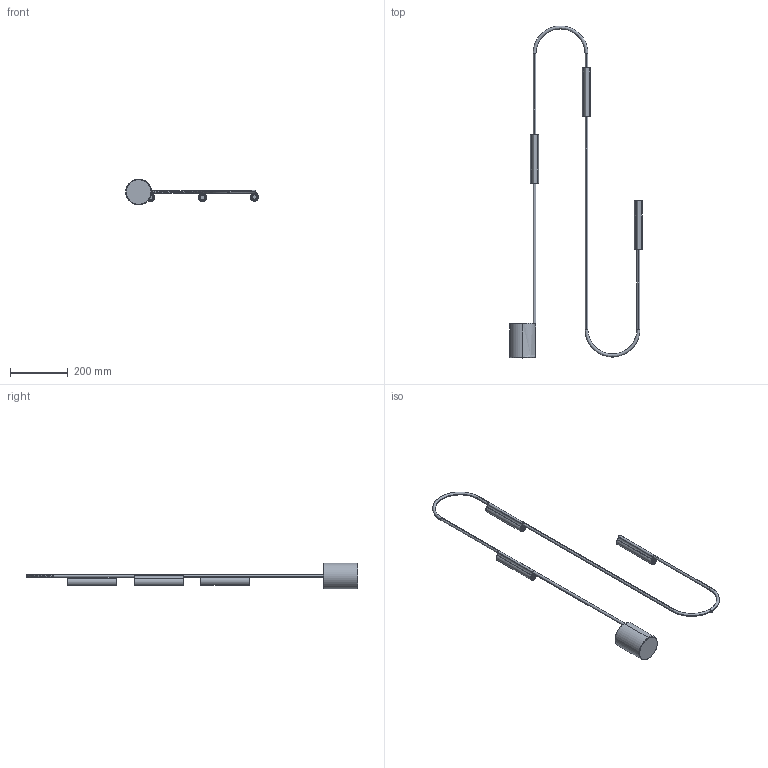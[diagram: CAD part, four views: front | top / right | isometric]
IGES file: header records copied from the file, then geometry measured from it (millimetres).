
Start section: SolidWorks IGES file using analytic representation for surfaces
Global section: file name: C:\Users\Joandita\Dropbox\Rakumba Industrial Design\PRODUCT\2 DEVELOPMENT\POP\CAD\LightWeight CAD\Pop - Floor.IGS; native system: SolidWorks 2017; preprocessor: SolidWorks 2017; author: Joandita; date: 240408.154734; units: millimetre
Bounding box: 460.42 x 1150 x 90 mm (x, y, z)
Surface area: 310662.1 mm2 (no closed solid volume)
Topology: 0 solids, 0 shells, 532 faces, 9540 edges, 9538 vertices
Faces by surface type: revolution 305, bspline 227
